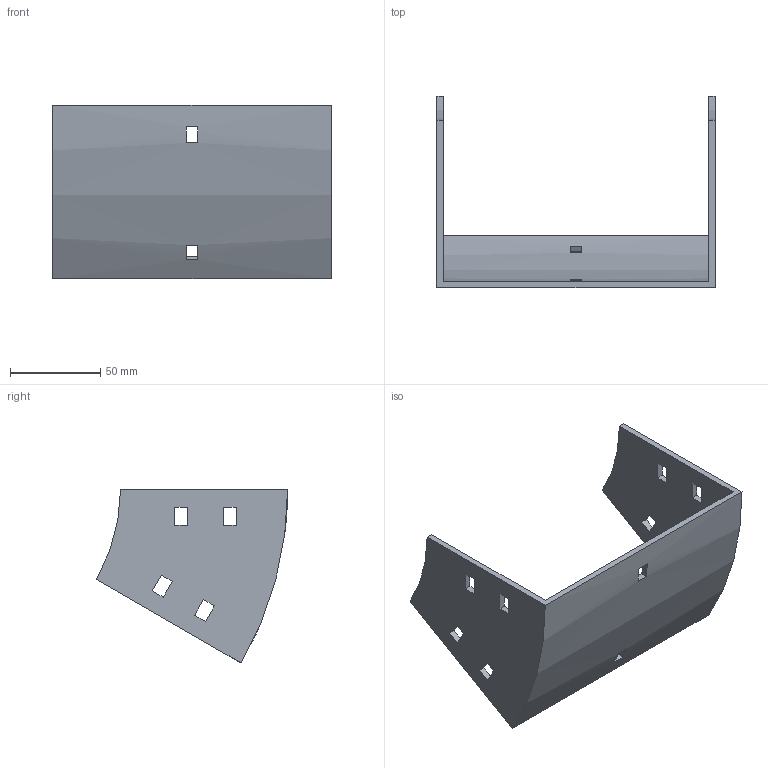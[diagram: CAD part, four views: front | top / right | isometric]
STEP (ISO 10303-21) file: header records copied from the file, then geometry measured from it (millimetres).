
FILE_DESCRIPTION (( 'STEP AP214' ), '1' );
FILE_NAME ('32B1I150.step', '2025-02-21T09:45:10', ( '' ), ( '' ), 'SwSTEP 2.0', 'SolidWorks 2023', '' );
FILE_SCHEMA (( 'AUTOMOTIVE_DESIGN' ));
Length unit declared in the file: millimetre
Products named in the file (1): 32B1I150
Bounding box: 154 x 105.9 x 96.25 mm (x, y, z)
Volume: 98598.5 mm3; surface area: 60208.8 mm2
Topology: 1 solids, 1 shells, 50 faces, 144 edges, 96 vertices
Faces by surface type: plane 46, cylinder 4
Entity records: 1687 total; most frequent: CARTESIAN_POINT 291, ORIENTED_EDGE 288, DIRECTION 262, EDGE_CURVE 144, LINE 128, VECTOR 128, VERTEX_POINT 96, EDGE_LOOP 70
